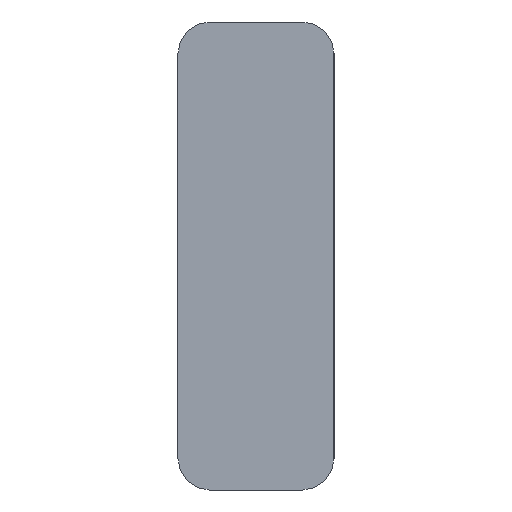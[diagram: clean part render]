
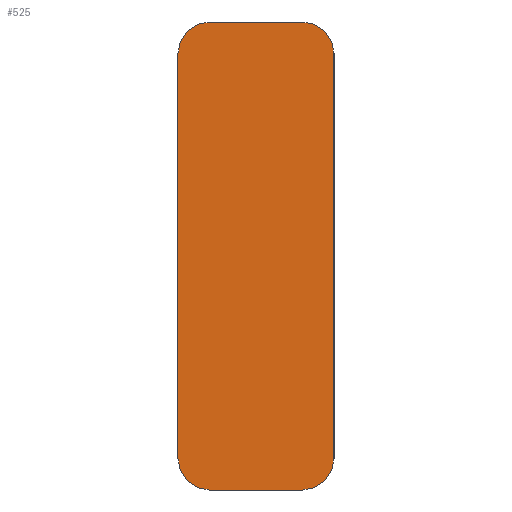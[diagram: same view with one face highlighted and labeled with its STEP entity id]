
A CAD part, left-side view. The second image highlights one B-rep face of the part: STEP entity #525.
In plain terms, the highlighted planar face has unit normal (-1, 0, 0).
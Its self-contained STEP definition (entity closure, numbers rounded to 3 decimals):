
#12 = CIRCLE ( 'NONE', #396, 1. ) ;
#20 = CARTESIAN_POINT ( 'NONE',  ( -572.5, -4., -6.5 ) ) ;
#23 = VECTOR ( 'NONE', #859, 1000. ) ;
#56 = EDGE_LOOP ( 'NONE', ( #633, #729, #842, #271, #811, #291, #304, #371 ) ) ;
#63 = VERTEX_POINT ( 'NONE', #828 ) ;
#85 = DIRECTION ( 'NONE',  ( 0., 0., 1. ) ) ;
#112 = EDGE_CURVE ( 'NONE', #315, #697, #426, .T. ) ;
#128 = CARTESIAN_POINT ( 'NONE',  ( -572.5, 0., -6.5 ) ) ;
#131 = LINE ( 'NONE', #594, #218 ) ;
#166 = AXIS2_PLACEMENT_3D ( 'NONE', #540, #608, #855 ) ;
#173 = DIRECTION ( 'NONE',  ( 0., 0., 1. ) ) ;
#176 = DIRECTION ( 'NONE',  ( 0., 1., 0. ) ) ;
#218 = VECTOR ( 'NONE', #176, 1000. ) ;
#271 = ORIENTED_EDGE ( 'NONE', *, *, #840, .T. ) ;
#276 = DIRECTION ( 'NONE',  ( 0., 0., 1. ) ) ;
#291 = ORIENTED_EDGE ( 'NONE', *, *, #589, .T. ) ;
#304 = ORIENTED_EDGE ( 'NONE', *, *, #339, .F. ) ;
#309 = VERTEX_POINT ( 'NONE', #734 ) ;
#310 = CARTESIAN_POINT ( 'NONE',  ( -572.5, -5., -7.5 ) ) ;
#313 = CARTESIAN_POINT ( 'NONE',  ( -572.5, -1., 7.5 ) ) ;
#315 = VERTEX_POINT ( 'NONE', #128 ) ;
#326 = LINE ( 'NONE', #663, #23 ) ;
#327 = VECTOR ( 'NONE', #276, 1000. ) ;
#332 = DIRECTION ( 'NONE',  ( -1., 0., 0. ) ) ;
#339 = EDGE_CURVE ( 'NONE', #315, #63, #580, .T. ) ;
#343 = LINE ( 'NONE', #310, #431 ) ;
#371 = ORIENTED_EDGE ( 'NONE', *, *, #112, .T. ) ;
#375 = CARTESIAN_POINT ( 'NONE',  ( -572.5, -1., 6.5 ) ) ;
#382 = CARTESIAN_POINT ( 'NONE',  ( -572.5, -1., -7.5 ) ) ;
#396 = AXIS2_PLACEMENT_3D ( 'NONE', #375, #587, #173 ) ;
#415 = CIRCLE ( 'NONE', #478, 1. ) ;
#420 = VERTEX_POINT ( 'NONE', #484 ) ;
#425 = DIRECTION ( 'NONE',  ( -1., 0., 0. ) ) ;
#426 = CIRCLE ( 'NONE', #166, 1. ) ;
#431 = VECTOR ( 'NONE', #702, 1000. ) ;
#438 = AXIS2_PLACEMENT_3D ( 'NONE', #20, #425, #487 ) ;
#439 = DIRECTION ( 'NONE',  ( 0., 0., 1. ) ) ;
#445 = EDGE_CURVE ( 'NONE', #420, #662, #618, .T. ) ;
#478 = AXIS2_PLACEMENT_3D ( 'NONE', #743, #332, #85 ) ;
#484 = CARTESIAN_POINT ( 'NONE',  ( -572.5, -4., -7.5 ) ) ;
#487 = DIRECTION ( 'NONE',  ( 0., 0., 1. ) ) ;
#513 = PLANE ( 'NONE',  #637 ) ;
#525 = ADVANCED_FACE ( 'NONE', ( #678 ), #513, .T. ) ;
#540 = CARTESIAN_POINT ( 'NONE',  ( -572.5, -1., -6.5 ) ) ;
#580 = LINE ( 'NONE', #670, #327 ) ;
#587 = DIRECTION ( 'NONE',  ( -1., 0., 0. ) ) ;
#589 = EDGE_CURVE ( 'NONE', #681, #63, #12, .T. ) ;
#594 = CARTESIAN_POINT ( 'NONE',  ( -572.5, -5., 7.5 ) ) ;
#608 = DIRECTION ( 'NONE',  ( -1., 0., 0. ) ) ;
#614 = EDGE_CURVE ( 'NONE', #420, #697, #343, .T. ) ;
#618 = CIRCLE ( 'NONE', #438, 1. ) ;
#633 = ORIENTED_EDGE ( 'NONE', *, *, #614, .F. ) ;
#637 = AXIS2_PLACEMENT_3D ( 'NONE', #833, #767, #439 ) ;
#646 = EDGE_CURVE ( 'NONE', #650, #681, #131, .T. ) ;
#650 = VERTEX_POINT ( 'NONE', #714 ) ;
#662 = VERTEX_POINT ( 'NONE', #717 ) ;
#663 = CARTESIAN_POINT ( 'NONE',  ( -572.5, -5., -7.5 ) ) ;
#670 = CARTESIAN_POINT ( 'NONE',  ( -572.5, 0., -7.5 ) ) ;
#678 = FACE_OUTER_BOUND ( 'NONE', #56, .T. ) ;
#681 = VERTEX_POINT ( 'NONE', #313 ) ;
#697 = VERTEX_POINT ( 'NONE', #382 ) ;
#702 = DIRECTION ( 'NONE',  ( 0., 1., 0. ) ) ;
#714 = CARTESIAN_POINT ( 'NONE',  ( -572.5, -4., 7.5 ) ) ;
#717 = CARTESIAN_POINT ( 'NONE',  ( -572.5, -5., -6.5 ) ) ;
#729 = ORIENTED_EDGE ( 'NONE', *, *, #445, .T. ) ;
#734 = CARTESIAN_POINT ( 'NONE',  ( -572.5, -5., 6.5 ) ) ;
#743 = CARTESIAN_POINT ( 'NONE',  ( -572.5, -4., 6.5 ) ) ;
#767 = DIRECTION ( 'NONE',  ( -1., 0., 0. ) ) ;
#799 = EDGE_CURVE ( 'NONE', #662, #309, #326, .T. ) ;
#811 = ORIENTED_EDGE ( 'NONE', *, *, #646, .T. ) ;
#828 = CARTESIAN_POINT ( 'NONE',  ( -572.5, 0., 6.5 ) ) ;
#833 = CARTESIAN_POINT ( 'NONE',  ( -572.5, -5., -7.5 ) ) ;
#840 = EDGE_CURVE ( 'NONE', #309, #650, #415, .T. ) ;
#842 = ORIENTED_EDGE ( 'NONE', *, *, #799, .T. ) ;
#855 = DIRECTION ( 'NONE',  ( 0., 0., 1. ) ) ;
#859 = DIRECTION ( 'NONE',  ( 0., 0., 1. ) ) ;
